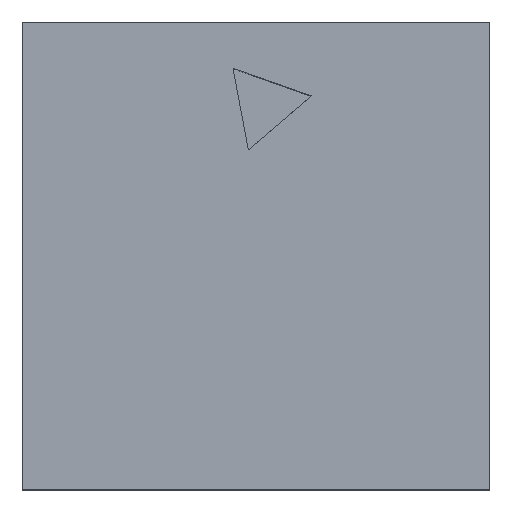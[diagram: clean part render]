
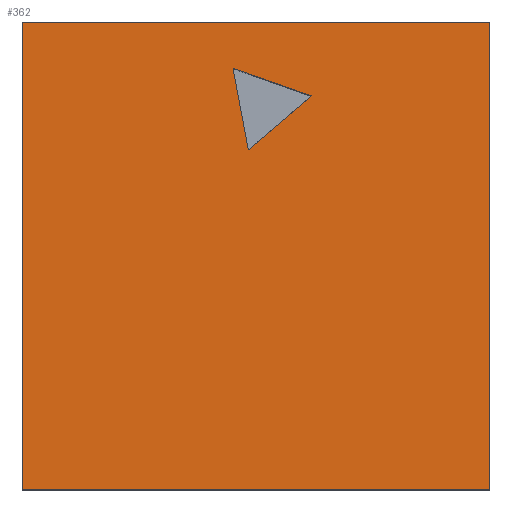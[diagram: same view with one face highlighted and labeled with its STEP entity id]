
A CAD part, top view. The second image highlights one B-rep face of the part: STEP entity #362.
In plain terms, the highlighted planar face has unit normal (0, 0, 1).
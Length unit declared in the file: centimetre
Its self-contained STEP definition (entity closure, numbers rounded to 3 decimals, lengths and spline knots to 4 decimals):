
#5 = CARTESIAN_POINT ( 'NONE',  ( 0., 1000., 1000. ) ) ;
#11 = ORIENTED_EDGE ( 'NONE', *, *, #863, .F. ) ;
#15 = VECTOR ( 'NONE', #401, 100. ) ;
#18 = CARTESIAN_POINT ( 'NONE',  ( 1000., 1000., 1000. ) ) ;
#31 = EDGE_CURVE ( 'NONE', #695, #836, #88, .T. ) ;
#36 = EDGE_CURVE ( 'NONE', #432, #246, #837, .T. ) ;
#44 = VECTOR ( 'NONE', #875, 100. ) ;
#46 = ORIENTED_EDGE ( 'NONE', *, *, #36, .F. ) ;
#61 = VECTOR ( 'NONE', #972, 100. ) ;
#87 = FACE_BOUND ( 'NONE', #351, .T. ) ;
#88 = LINE ( 'NONE', #5, #15 ) ;
#101 = CARTESIAN_POINT ( 'NONE',  ( 618.3476, 841.6568, 1000. ) ) ;
#106 = DIRECTION ( 'NONE',  ( 1., 0., 0. ) ) ;
#118 = CARTESIAN_POINT ( 'NONE',  ( 0., 1000., 1000. ) ) ;
#183 = LINE ( 'NONE', #18, #44 ) ;
#189 = AXIS2_PLACEMENT_3D ( 'NONE', #480, #784, #106 ) ;
#190 = LINE ( 'NONE', #118, #61 ) ;
#192 = LINE ( 'NONE', #101, #872 ) ;
#202 = DIRECTION ( 'NONE',  ( 1., 0., 0. ) ) ;
#246 = VERTEX_POINT ( 'NONE', #578 ) ;
#248 = CARTESIAN_POINT ( 'NONE',  ( 483.4177, 726.1989, 1000. ) ) ;
#261 = FACE_OUTER_BOUND ( 'NONE', #322, .T. ) ;
#267 = CARTESIAN_POINT ( 'NONE',  ( 0., 1000., 1000. ) ) ;
#290 = VERTEX_POINT ( 'NONE', #899 ) ;
#322 = EDGE_LOOP ( 'NONE', ( #770, #859, #530, #909 ) ) ;
#328 = EDGE_CURVE ( 'NONE', #246, #290, #192, .T. ) ;
#333 = CARTESIAN_POINT ( 'NONE',  ( 1000., 0., 1000. ) ) ;
#351 = EDGE_LOOP ( 'NONE', ( #46, #11, #739 ) ) ;
#362 = ADVANCED_FACE ( 'NONE', ( #87, #261 ), #694, .T. ) ;
#375 = VERTEX_POINT ( 'NONE', #333 ) ;
#376 = VECTOR ( 'NONE', #506, 100. ) ;
#385 = DIRECTION ( 'NONE',  ( 0.76, 0.65, 0. ) ) ;
#401 = DIRECTION ( 'NONE',  ( -1., 0., 0. ) ) ;
#432 = VERTEX_POINT ( 'NONE', #804 ) ;
#463 = EDGE_CURVE ( 'NONE', #488, #375, #965, .T. ) ;
#480 = CARTESIAN_POINT ( 'NONE',  ( 0., 0., 1000. ) ) ;
#488 = VERTEX_POINT ( 'NONE', #507 ) ;
#506 = DIRECTION ( 'NONE',  ( 0.183, -0.983, 0. ) ) ;
#507 = CARTESIAN_POINT ( 'NONE',  ( 0., 0., 1000. ) ) ;
#530 = ORIENTED_EDGE ( 'NONE', *, *, #702, .T. ) ;
#566 = VECTOR ( 'NONE', #385, 100. ) ;
#570 = CARTESIAN_POINT ( 'NONE',  ( 450.8932, 900.7806, 1000. ) ) ;
#578 = CARTESIAN_POINT ( 'NONE',  ( 618.3476, 841.6568, 1000. ) ) ;
#694 = PLANE ( 'NONE',  #189 ) ;
#695 = VERTEX_POINT ( 'NONE', #871 ) ;
#702 = EDGE_CURVE ( 'NONE', #375, #695, #183, .T. ) ;
#721 = LINE ( 'NONE', #570, #376 ) ;
#735 = CARTESIAN_POINT ( 'NONE',  ( 0., 0., 1000. ) ) ;
#739 = ORIENTED_EDGE ( 'NONE', *, *, #328, .F. ) ;
#770 = ORIENTED_EDGE ( 'NONE', *, *, #831, .T. ) ;
#784 = DIRECTION ( 'NONE',  ( 0., 0., 1. ) ) ;
#804 = CARTESIAN_POINT ( 'NONE',  ( 483.4177, 726.1989, 1000. ) ) ;
#822 = VECTOR ( 'NONE', #202, 100. ) ;
#831 = EDGE_CURVE ( 'NONE', #836, #488, #190, .T. ) ;
#836 = VERTEX_POINT ( 'NONE', #267 ) ;
#837 = LINE ( 'NONE', #248, #566 ) ;
#859 = ORIENTED_EDGE ( 'NONE', *, *, #463, .T. ) ;
#860 = DIRECTION ( 'NONE',  ( -0.943, 0.333, 0. ) ) ;
#863 = EDGE_CURVE ( 'NONE', #290, #432, #721, .T. ) ;
#871 = CARTESIAN_POINT ( 'NONE',  ( 1000., 1000., 1000. ) ) ;
#872 = VECTOR ( 'NONE', #860, 100. ) ;
#875 = DIRECTION ( 'NONE',  ( 0., 1., 0. ) ) ;
#899 = CARTESIAN_POINT ( 'NONE',  ( 450.8932, 900.7806, 1000. ) ) ;
#909 = ORIENTED_EDGE ( 'NONE', *, *, #31, .T. ) ;
#965 = LINE ( 'NONE', #735, #822 ) ;
#972 = DIRECTION ( 'NONE',  ( 0., -1., 0. ) ) ;
